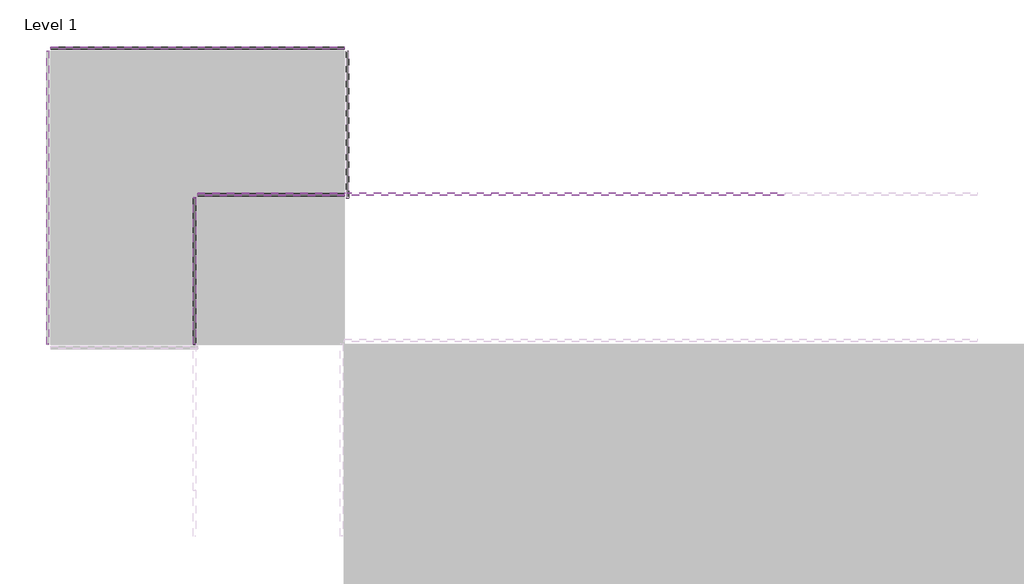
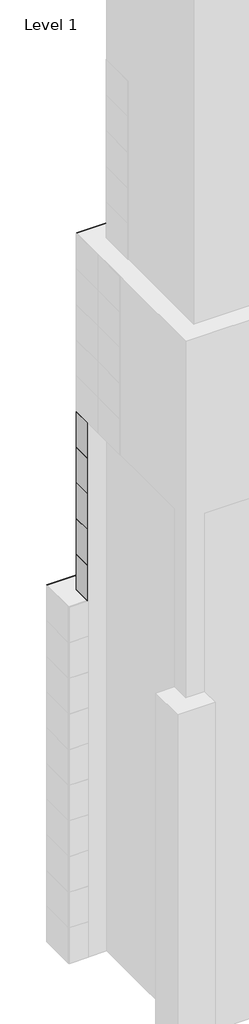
# One storey, part 8 of 15: 137 plates.
"""IFC4 building model written with IfcOpenShell, lengths in millimetres."""

from ifc_helpers import new_model, si_unit, origin, place, context, project, spatial, transform, mapped, element, save
from components import system_panel_glazed_9c75bc08, system_panel_glazed_0a0842ec, system_panel_glazed_aa64d645

model = new_model("IFC4")

# Units and contexts
model_context = context("Model", 3, world=origin())
ifc_project = project(units=[si_unit("LENGTHUNIT", "METRE", prefix="MILLI")], contexts=[model_context])

# Site, building, storey
site = spatial("IfcSite", under=ifc_project)
building = spatial("IfcBuilding", under=site)
storey = spatial("IfcBuildingStorey", under=building, Name="Level 1", Elevation=0.0)

# Plates
placement = place(None, origin())
system_panel_glazed_shape = system_panel_glazed_9c75bc08(model_context)
element("IfcPlate", 1, ObjectType="System Panel : Glazed", at=placement, inside=storey, context=model_context, shape_type="MappedRepresentation", body=[
    mapped(system_panel_glazed_shape, transform((-20839.4161695, 8735.9495511, 0.0), x_axis=(0.0, -1.0, 0.0), y_axis=(1.0, 0.0, 0.0), z_axis=(0.0, 0.0, 1.0))),
])
element("IfcPlate", 2, ObjectType="System Panel : Glazed", at=placement, inside=storey, context=model_context, shape_type="MappedRepresentation", body=[
    mapped(system_panel_glazed_shape, transform((-20839.4161695, 8735.9495511, 3048.0), x_axis=(0.0, -1.0, 0.0), y_axis=(1.0, 0.0, 0.0), z_axis=(0.0, 0.0, 1.0))),
])
element("IfcPlate", 3, ObjectType="System Panel : Glazed", at=placement, inside=storey, context=model_context, shape_type="MappedRepresentation", body=[
    mapped(system_panel_glazed_shape, transform((-20839.4161695, 8735.9495511, 6096.0), x_axis=(0.0, -1.0, 0.0), y_axis=(1.0, 0.0, 0.0), z_axis=(0.0, 0.0, 1.0))),
])
element("IfcPlate", 4, ObjectType="System Panel : Glazed", at=placement, inside=storey, context=model_context, shape_type="MappedRepresentation", body=[
    mapped(system_panel_glazed_shape, transform((-20839.4161695, 8735.9495511, 9144.0), x_axis=(0.0, -1.0, 0.0), y_axis=(1.0, 0.0, 0.0), z_axis=(0.0, 0.0, 1.0))),
])
element("IfcPlate", 5, ObjectType="System Panel : Glazed", at=placement, inside=storey, context=model_context, shape_type="MappedRepresentation", body=[
    mapped(system_panel_glazed_shape, transform((-20839.4161695, 8735.9495511, 12192.0), x_axis=(0.0, -1.0, 0.0), y_axis=(1.0, 0.0, 0.0), z_axis=(0.0, 0.0, 1.0))),
])
element("IfcPlate", 6, ObjectType="System Panel : Glazed", at=placement, inside=storey, context=model_context, shape_type="MappedRepresentation", body=[
    mapped(system_panel_glazed_shape, transform((-20839.4161695, 8735.9495511, 15240.0), x_axis=(0.0, -1.0, 0.0), y_axis=(1.0, 0.0, 0.0), z_axis=(0.0, 0.0, 1.0))),
])
element("IfcPlate", 7, ObjectType="System Panel : Glazed", at=placement, inside=storey, context=model_context, shape_type="MappedRepresentation", body=[
    mapped(system_panel_glazed_shape, transform((-20839.4161695, 8735.9495511, 18288.0), x_axis=(0.0, -1.0, 0.0), y_axis=(1.0, 0.0, 0.0), z_axis=(0.0, 0.0, 1.0))),
])
element("IfcPlate", 8, ObjectType="System Panel : Glazed", at=placement, inside=storey, context=model_context, shape_type="MappedRepresentation", body=[
    mapped(system_panel_glazed_shape, transform((-20839.4161695, 8735.9495511, 21336.0), x_axis=(0.0, -1.0, 0.0), y_axis=(1.0, 0.0, 0.0), z_axis=(0.0, 0.0, 1.0))),
])
element("IfcPlate", 9, ObjectType="System Panel : Glazed", at=placement, inside=storey, context=model_context, shape_type="MappedRepresentation", body=[
    mapped(system_panel_glazed_shape, transform((-20839.4161695, 8735.9495511, 24384.0), x_axis=(0.0, -1.0, 0.0), y_axis=(1.0, 0.0, 0.0), z_axis=(0.0, 0.0, 1.0))),
])
element("IfcPlate", 10, ObjectType="System Panel : Glazed", at=placement, inside=storey, context=model_context, shape_type="MappedRepresentation", body=[
    mapped(system_panel_glazed_shape, transform((-20839.4161695, 8735.9495511, 27432.0), x_axis=(0.0, -1.0, 0.0), y_axis=(1.0, 0.0, 0.0), z_axis=(0.0, 0.0, 1.0))),
])
element("IfcPlate", 11, ObjectType="System Panel : Glazed", at=placement, inside=storey, context=model_context, shape_type="MappedRepresentation", body=[
    mapped(system_panel_glazed_shape, transform((-20839.4161695, 8735.9495511, 30480.0), x_axis=(0.0, -1.0, 0.0), y_axis=(1.0, 0.0, 0.0), z_axis=(0.0, 0.0, 1.0))),
])
element("IfcPlate", 12, ObjectType="System Panel : Glazed", at=placement, inside=storey, context=model_context, shape_type="MappedRepresentation", body=[
    mapped(system_panel_glazed_shape, transform((-20839.4161695, 8735.9495511, 33528.0), x_axis=(0.0, -1.0, 0.0), y_axis=(1.0, 0.0, 0.0), z_axis=(0.0, 0.0, 1.0))),
])
element("IfcPlate", 13, ObjectType="System Panel : Glazed", at=placement, inside=storey, context=model_context, shape_type="MappedRepresentation", body=[
    mapped(system_panel_glazed_shape, transform((-20839.4161695, 8735.9495511, 36576.0), x_axis=(0.0, -1.0, 0.0), y_axis=(1.0, 0.0, 0.0), z_axis=(0.0, 0.0, 1.0))),
])
element("IfcPlate", 14, ObjectType="System Panel : Glazed", at=placement, inside=storey, context=model_context, shape_type="MappedRepresentation", body=[
    mapped(system_panel_glazed_shape, transform((-20839.4161695, 8735.9495511, 39624.0), x_axis=(0.0, -1.0, 0.0), y_axis=(1.0, 0.0, 0.0), z_axis=(0.0, 0.0, 1.0))),
])
element("IfcPlate", 15, ObjectType="System Panel : Glazed", at=placement, inside=storey, context=model_context, shape_type="MappedRepresentation", body=[
    mapped(system_panel_glazed_shape, transform((-20839.4161695, 8735.9495511, 42672.0), x_axis=(0.0, -1.0, 0.0), y_axis=(1.0, 0.0, 0.0), z_axis=(0.0, 0.0, 1.0))),
])
element("IfcPlate", 16, ObjectType="System Panel : Glazed", at=placement, inside=storey, context=model_context, shape_type="MappedRepresentation", body=[
    mapped(system_panel_glazed_shape, transform((-20077.4161695, 9497.9495511, 0.0), x_axis=(-1.0, 0.0, 0.0), y_axis=(0.0, -1.0, 0.0), z_axis=(0.0, 0.0, 1.0))),
])
element("IfcPlate", 17, ObjectType="System Panel : Glazed", at=placement, inside=storey, context=model_context, shape_type="MappedRepresentation", body=[
    mapped(system_panel_glazed_shape, transform((-20077.4161695, 9497.9495511, 3048.0), x_axis=(-1.0, 0.0, 0.0), y_axis=(0.0, -1.0, 0.0), z_axis=(0.0, 0.0, 1.0))),
])
element("IfcPlate", 18, ObjectType="System Panel : Glazed", at=placement, inside=storey, context=model_context, shape_type="MappedRepresentation", body=[
    mapped(system_panel_glazed_shape, transform((-20077.4161695, 9497.9495511, 6096.0), x_axis=(-1.0, 0.0, 0.0), y_axis=(0.0, -1.0, 0.0), z_axis=(0.0, 0.0, 1.0))),
])
element("IfcPlate", 19, ObjectType="System Panel : Glazed", at=placement, inside=storey, context=model_context, shape_type="MappedRepresentation", body=[
    mapped(system_panel_glazed_shape, transform((-20077.4161695, 9497.9495511, 9144.0), x_axis=(-1.0, 0.0, 0.0), y_axis=(0.0, -1.0, 0.0), z_axis=(0.0, 0.0, 1.0))),
])
element("IfcPlate", 20, ObjectType="System Panel : Glazed", at=placement, inside=storey, context=model_context, shape_type="MappedRepresentation", body=[
    mapped(system_panel_glazed_shape, transform((-20077.4161695, 9497.9495511, 12192.0), x_axis=(-1.0, 0.0, 0.0), y_axis=(0.0, -1.0, 0.0), z_axis=(0.0, 0.0, 1.0))),
])
element("IfcPlate", 21, ObjectType="System Panel : Glazed", at=placement, inside=storey, context=model_context, shape_type="MappedRepresentation", body=[
    mapped(system_panel_glazed_shape, transform((-20077.4161695, 9497.9495511, 15240.0), x_axis=(-1.0, 0.0, 0.0), y_axis=(0.0, -1.0, 0.0), z_axis=(0.0, 0.0, 1.0))),
])
element("IfcPlate", 22, ObjectType="System Panel : Glazed", at=placement, inside=storey, context=model_context, shape_type="MappedRepresentation", body=[
    mapped(system_panel_glazed_shape, transform((-20077.4161695, 9497.9495511, 18288.0), x_axis=(-1.0, 0.0, 0.0), y_axis=(0.0, -1.0, 0.0), z_axis=(0.0, 0.0, 1.0))),
])
element("IfcPlate", 23, ObjectType="System Panel : Glazed", at=placement, inside=storey, context=model_context, shape_type="MappedRepresentation", body=[
    mapped(system_panel_glazed_shape, transform((-20077.4161695, 9497.9495511, 21336.0), x_axis=(-1.0, 0.0, 0.0), y_axis=(0.0, -1.0, 0.0), z_axis=(0.0, 0.0, 1.0))),
])
element("IfcPlate", 24, ObjectType="System Panel : Glazed", at=placement, inside=storey, context=model_context, shape_type="MappedRepresentation", body=[
    mapped(system_panel_glazed_shape, transform((-20077.4161695, 9497.9495511, 24384.0), x_axis=(-1.0, 0.0, 0.0), y_axis=(0.0, -1.0, 0.0), z_axis=(0.0, 0.0, 1.0))),
])
element("IfcPlate", 25, ObjectType="System Panel : Glazed", at=placement, inside=storey, context=model_context, shape_type="MappedRepresentation", body=[
    mapped(system_panel_glazed_shape, transform((-20077.4161695, 9497.9495511, 27432.0), x_axis=(-1.0, 0.0, 0.0), y_axis=(0.0, -1.0, 0.0), z_axis=(0.0, 0.0, 1.0))),
])
element("IfcPlate", 26, ObjectType="System Panel : Glazed", at=placement, inside=storey, context=model_context, shape_type="MappedRepresentation", body=[
    mapped(system_panel_glazed_shape, transform((-20077.4161695, 9497.9495511, 30480.0), x_axis=(-1.0, 0.0, 0.0), y_axis=(0.0, -1.0, 0.0), z_axis=(0.0, 0.0, 1.0))),
])
element("IfcPlate", 27, ObjectType="System Panel : Glazed", at=placement, inside=storey, context=model_context, shape_type="MappedRepresentation", body=[
    mapped(system_panel_glazed_shape, transform((-20077.4161695, 9497.9495511, 33528.0), x_axis=(-1.0, 0.0, 0.0), y_axis=(0.0, -1.0, 0.0), z_axis=(0.0, 0.0, 1.0))),
])
element("IfcPlate", 28, ObjectType="System Panel : Glazed", at=placement, inside=storey, context=model_context, shape_type="MappedRepresentation", body=[
    mapped(system_panel_glazed_shape, transform((-20077.4161695, 9497.9495511, 36576.0), x_axis=(-1.0, 0.0, 0.0), y_axis=(0.0, -1.0, 0.0), z_axis=(0.0, 0.0, 1.0))),
])
element("IfcPlate", 29, ObjectType="System Panel : Glazed", at=placement, inside=storey, context=model_context, shape_type="MappedRepresentation", body=[
    mapped(system_panel_glazed_shape, transform((-20077.4161695, 9497.9495511, 39624.0), x_axis=(-1.0, 0.0, 0.0), y_axis=(0.0, -1.0, 0.0), z_axis=(0.0, 0.0, 1.0))),
])
element("IfcPlate", 30, ObjectType="System Panel : Glazed", at=placement, inside=storey, context=model_context, shape_type="MappedRepresentation", body=[
    mapped(system_panel_glazed_shape, transform((-20077.4161695, 9497.9495511, 42672.0), x_axis=(-1.0, 0.0, 0.0), y_axis=(0.0, -1.0, 0.0), z_axis=(0.0, 0.0, 1.0))),
])
element("IfcPlate", 31, ObjectType="System Panel : Glazed", at=placement, inside=storey, context=model_context, shape_type="MappedRepresentation", body=[
    mapped(system_panel_glazed_shape, transform((-20077.4161695, 9497.9495511, 0.0), x_axis=(-1.0, 0.0, 0.0), y_axis=(0.0, -1.0, 0.0), z_axis=(0.0, 0.0, 1.0))),
])
element("IfcPlate", 32, ObjectType="System Panel : Glazed", at=placement, inside=storey, context=model_context, shape_type="MappedRepresentation", body=[
    mapped(system_panel_glazed_shape, transform((-20077.4161695, 9497.9495511, 3048.0), x_axis=(-1.0, 0.0, 0.0), y_axis=(0.0, -1.0, 0.0), z_axis=(0.0, 0.0, 1.0))),
])
element("IfcPlate", 33, ObjectType="System Panel : Glazed", at=placement, inside=storey, context=model_context, shape_type="MappedRepresentation", body=[
    mapped(system_panel_glazed_shape, transform((-20077.4161695, 9497.9495511, 6096.0), x_axis=(-1.0, 0.0, 0.0), y_axis=(0.0, -1.0, 0.0), z_axis=(0.0, 0.0, 1.0))),
])
element("IfcPlate", 34, ObjectType="System Panel : Glazed", at=placement, inside=storey, context=model_context, shape_type="MappedRepresentation", body=[
    mapped(system_panel_glazed_shape, transform((-20077.4161695, 9497.9495511, 9144.0), x_axis=(-1.0, 0.0, 0.0), y_axis=(0.0, -1.0, 0.0), z_axis=(0.0, 0.0, 1.0))),
])
element("IfcPlate", 35, ObjectType="System Panel : Glazed", at=placement, inside=storey, context=model_context, shape_type="MappedRepresentation", body=[
    mapped(system_panel_glazed_shape, transform((-20077.4161695, 9497.9495511, 12192.0), x_axis=(-1.0, 0.0, 0.0), y_axis=(0.0, -1.0, 0.0), z_axis=(0.0, 0.0, 1.0))),
])
element("IfcPlate", 36, ObjectType="System Panel : Glazed", at=placement, inside=storey, context=model_context, shape_type="MappedRepresentation", body=[
    mapped(system_panel_glazed_shape, transform((-20077.4161695, 9497.9495511, 15240.0), x_axis=(-1.0, 0.0, 0.0), y_axis=(0.0, -1.0, 0.0), z_axis=(0.0, 0.0, 1.0))),
])
element("IfcPlate", 37, ObjectType="System Panel : Glazed", at=placement, inside=storey, context=model_context, shape_type="MappedRepresentation", body=[
    mapped(system_panel_glazed_shape, transform((-20077.4161695, 9497.9495511, 18288.0), x_axis=(-1.0, 0.0, 0.0), y_axis=(0.0, -1.0, 0.0), z_axis=(0.0, 0.0, 1.0))),
])
element("IfcPlate", 38, ObjectType="System Panel : Glazed", at=placement, inside=storey, context=model_context, shape_type="MappedRepresentation", body=[
    mapped(system_panel_glazed_shape, transform((-20077.4161695, 9497.9495511, 21336.0), x_axis=(-1.0, 0.0, 0.0), y_axis=(0.0, -1.0, 0.0), z_axis=(0.0, 0.0, 1.0))),
])
element("IfcPlate", 39, ObjectType="System Panel : Glazed", at=placement, inside=storey, context=model_context, shape_type="MappedRepresentation", body=[
    mapped(system_panel_glazed_shape, transform((-20077.4161695, 9497.9495511, 24384.0), x_axis=(-1.0, 0.0, 0.0), y_axis=(0.0, -1.0, 0.0), z_axis=(0.0, 0.0, 1.0))),
])
element("IfcPlate", 40, ObjectType="System Panel : Glazed", at=placement, inside=storey, context=model_context, shape_type="MappedRepresentation", body=[
    mapped(system_panel_glazed_shape, transform((-20077.4161695, 9497.9495511, 27432.0), x_axis=(-1.0, 0.0, 0.0), y_axis=(0.0, -1.0, 0.0), z_axis=(0.0, 0.0, 1.0))),
])
element("IfcPlate", 41, ObjectType="System Panel : Glazed", at=placement, inside=storey, context=model_context, shape_type="MappedRepresentation", body=[
    mapped(system_panel_glazed_shape, transform((-20077.4161695, 9497.9495511, 30480.0), x_axis=(-1.0, 0.0, 0.0), y_axis=(0.0, -1.0, 0.0), z_axis=(0.0, 0.0, 1.0))),
])
element("IfcPlate", 42, ObjectType="System Panel : Glazed", at=placement, inside=storey, context=model_context, shape_type="MappedRepresentation", body=[
    mapped(system_panel_glazed_shape, transform((-20077.4161695, 9497.9495511, 33528.0), x_axis=(-1.0, 0.0, 0.0), y_axis=(0.0, -1.0, 0.0), z_axis=(0.0, 0.0, 1.0))),
])
element("IfcPlate", 43, ObjectType="System Panel : Glazed", at=placement, inside=storey, context=model_context, shape_type="MappedRepresentation", body=[
    mapped(system_panel_glazed_shape, transform((-20077.4161695, 9497.9495511, 36576.0), x_axis=(-1.0, 0.0, 0.0), y_axis=(0.0, -1.0, 0.0), z_axis=(0.0, 0.0, 1.0))),
])
element("IfcPlate", 44, ObjectType="System Panel : Glazed", at=placement, inside=storey, context=model_context, shape_type="MappedRepresentation", body=[
    mapped(system_panel_glazed_shape, transform((-20077.4161695, 9497.9495511, 39624.0), x_axis=(-1.0, 0.0, 0.0), y_axis=(0.0, -1.0, 0.0), z_axis=(0.0, 0.0, 1.0))),
])
element("IfcPlate", 45, ObjectType="System Panel : Glazed", at=placement, inside=storey, context=model_context, shape_type="MappedRepresentation", body=[
    mapped(system_panel_glazed_shape, transform((-20077.4161695, 9497.9495511, 42672.0), x_axis=(-1.0, 0.0, 0.0), y_axis=(0.0, -1.0, 0.0), z_axis=(0.0, 0.0, 1.0))),
])
element("IfcPlate", 46, ObjectType="System Panel : Glazed", at=placement, inside=storey, context=model_context, shape_type="MappedRepresentation", body=[
    mapped(system_panel_glazed_shape, transform((-20839.4161695, 8735.9495511, 0.0), x_axis=(0.0, -1.0, 0.0), y_axis=(1.0, 0.0, 0.0), z_axis=(0.0, 0.0, 1.0))),
])
element("IfcPlate", 47, ObjectType="System Panel : Glazed", at=placement, inside=storey, context=model_context, shape_type="MappedRepresentation", body=[
    mapped(system_panel_glazed_shape, transform((-20839.4161695, 8735.9495511, 3048.0), x_axis=(0.0, -1.0, 0.0), y_axis=(1.0, 0.0, 0.0), z_axis=(0.0, 0.0, 1.0))),
])
element("IfcPlate", 48, ObjectType="System Panel : Glazed", at=placement, inside=storey, context=model_context, shape_type="MappedRepresentation", body=[
    mapped(system_panel_glazed_shape, transform((-20839.4161695, 8735.9495511, 6096.0), x_axis=(0.0, -1.0, 0.0), y_axis=(1.0, 0.0, 0.0), z_axis=(0.0, 0.0, 1.0))),
])
element("IfcPlate", 49, ObjectType="System Panel : Glazed", at=placement, inside=storey, context=model_context, shape_type="MappedRepresentation", body=[
    mapped(system_panel_glazed_shape, transform((-20839.4161695, 8735.9495511, 9144.0), x_axis=(0.0, -1.0, 0.0), y_axis=(1.0, 0.0, 0.0), z_axis=(0.0, 0.0, 1.0))),
])
element("IfcPlate", 50, ObjectType="System Panel : Glazed", at=placement, inside=storey, context=model_context, shape_type="MappedRepresentation", body=[
    mapped(system_panel_glazed_shape, transform((-20839.4161695, 8735.9495511, 12192.0), x_axis=(0.0, -1.0, 0.0), y_axis=(1.0, 0.0, 0.0), z_axis=(0.0, 0.0, 1.0))),
])
element("IfcPlate", 51, ObjectType="System Panel : Glazed", at=placement, inside=storey, context=model_context, shape_type="MappedRepresentation", body=[
    mapped(system_panel_glazed_shape, transform((-20839.4161695, 8735.9495511, 15240.0), x_axis=(0.0, -1.0, 0.0), y_axis=(1.0, 0.0, 0.0), z_axis=(0.0, 0.0, 1.0))),
])
element("IfcPlate", 52, ObjectType="System Panel : Glazed", at=placement, inside=storey, context=model_context, shape_type="MappedRepresentation", body=[
    mapped(system_panel_glazed_shape, transform((-20839.4161695, 8735.9495511, 18288.0), x_axis=(0.0, -1.0, 0.0), y_axis=(1.0, 0.0, 0.0), z_axis=(0.0, 0.0, 1.0))),
])
element("IfcPlate", 53, ObjectType="System Panel : Glazed", at=placement, inside=storey, context=model_context, shape_type="MappedRepresentation", body=[
    mapped(system_panel_glazed_shape, transform((-20839.4161695, 8735.9495511, 21336.0), x_axis=(0.0, -1.0, 0.0), y_axis=(1.0, 0.0, 0.0), z_axis=(0.0, 0.0, 1.0))),
])
element("IfcPlate", 54, ObjectType="System Panel : Glazed", at=placement, inside=storey, context=model_context, shape_type="MappedRepresentation", body=[
    mapped(system_panel_glazed_shape, transform((-20839.4161695, 8735.9495511, 24384.0), x_axis=(0.0, -1.0, 0.0), y_axis=(1.0, 0.0, 0.0), z_axis=(0.0, 0.0, 1.0))),
])
element("IfcPlate", 55, ObjectType="System Panel : Glazed", at=placement, inside=storey, context=model_context, shape_type="MappedRepresentation", body=[
    mapped(system_panel_glazed_shape, transform((-20839.4161695, 8735.9495511, 27432.0), x_axis=(0.0, -1.0, 0.0), y_axis=(1.0, 0.0, 0.0), z_axis=(0.0, 0.0, 1.0))),
])
element("IfcPlate", 56, ObjectType="System Panel : Glazed", at=placement, inside=storey, context=model_context, shape_type="MappedRepresentation", body=[
    mapped(system_panel_glazed_shape, transform((-20839.4161695, 8735.9495511, 30480.0), x_axis=(0.0, -1.0, 0.0), y_axis=(1.0, 0.0, 0.0), z_axis=(0.0, 0.0, 1.0))),
])
element("IfcPlate", 57, ObjectType="System Panel : Glazed", at=placement, inside=storey, context=model_context, shape_type="MappedRepresentation", body=[
    mapped(system_panel_glazed_shape, transform((-20839.4161695, 8735.9495511, 33528.0), x_axis=(0.0, -1.0, 0.0), y_axis=(1.0, 0.0, 0.0), z_axis=(0.0, 0.0, 1.0))),
])
element("IfcPlate", 58, ObjectType="System Panel : Glazed", at=placement, inside=storey, context=model_context, shape_type="MappedRepresentation", body=[
    mapped(system_panel_glazed_shape, transform((-20839.4161695, 8735.9495511, 36576.0), x_axis=(0.0, -1.0, 0.0), y_axis=(1.0, 0.0, 0.0), z_axis=(0.0, 0.0, 1.0))),
])
element("IfcPlate", 59, ObjectType="System Panel : Glazed", at=placement, inside=storey, context=model_context, shape_type="MappedRepresentation", body=[
    mapped(system_panel_glazed_shape, transform((-20839.4161695, 8735.9495511, 39624.0), x_axis=(0.0, -1.0, 0.0), y_axis=(1.0, 0.0, 0.0), z_axis=(0.0, 0.0, 1.0))),
])
element("IfcPlate", 60, ObjectType="System Panel : Glazed", at=placement, inside=storey, context=model_context, shape_type="MappedRepresentation", body=[
    mapped(system_panel_glazed_shape, transform((-20839.4161695, 8735.9495511, 42672.0), x_axis=(0.0, -1.0, 0.0), y_axis=(1.0, 0.0, 0.0), z_axis=(0.0, 0.0, 1.0))),
])
element("IfcPlate", 61, ObjectType="System Panel : Glazed", at=placement, inside=storey, context=model_context, shape_type="MappedRepresentation", body=[
    mapped(system_panel_glazed_shape, transform((-20077.4161695, 9497.9495511, 0.0), x_axis=(-1.0, 0.0, 0.0), y_axis=(0.0, -1.0, 0.0), z_axis=(0.0, 0.0, 1.0))),
])
element("IfcPlate", 62, ObjectType="System Panel : Glazed", at=placement, inside=storey, context=model_context, shape_type="MappedRepresentation", body=[
    mapped(system_panel_glazed_shape, transform((-20077.4161695, 9497.9495511, 3048.0), x_axis=(-1.0, 0.0, 0.0), y_axis=(0.0, -1.0, 0.0), z_axis=(0.0, 0.0, 1.0))),
])
element("IfcPlate", 63, ObjectType="System Panel : Glazed", at=placement, inside=storey, context=model_context, shape_type="MappedRepresentation", body=[
    mapped(system_panel_glazed_shape, transform((-20077.4161695, 9497.9495511, 6096.0), x_axis=(-1.0, 0.0, 0.0), y_axis=(0.0, -1.0, 0.0), z_axis=(0.0, 0.0, 1.0))),
])
element("IfcPlate", 64, ObjectType="System Panel : Glazed", at=placement, inside=storey, context=model_context, shape_type="MappedRepresentation", body=[
    mapped(system_panel_glazed_shape, transform((-20077.4161695, 9497.9495511, 9144.0), x_axis=(-1.0, 0.0, 0.0), y_axis=(0.0, -1.0, 0.0), z_axis=(0.0, 0.0, 1.0))),
])
element("IfcPlate", 65, ObjectType="System Panel : Glazed", at=placement, inside=storey, context=model_context, shape_type="MappedRepresentation", body=[
    mapped(system_panel_glazed_shape, transform((-20077.4161695, 9497.9495511, 12192.0), x_axis=(-1.0, 0.0, 0.0), y_axis=(0.0, -1.0, 0.0), z_axis=(0.0, 0.0, 1.0))),
])
element("IfcPlate", 66, ObjectType="System Panel : Glazed", at=placement, inside=storey, context=model_context, shape_type="MappedRepresentation", body=[
    mapped(system_panel_glazed_shape, transform((-20077.4161695, 9497.9495511, 15240.0), x_axis=(-1.0, 0.0, 0.0), y_axis=(0.0, -1.0, 0.0), z_axis=(0.0, 0.0, 1.0))),
])
element("IfcPlate", 67, ObjectType="System Panel : Glazed", at=placement, inside=storey, context=model_context, shape_type="MappedRepresentation", body=[
    mapped(system_panel_glazed_shape, transform((-20077.4161695, 9497.9495511, 18288.0), x_axis=(-1.0, 0.0, 0.0), y_axis=(0.0, -1.0, 0.0), z_axis=(0.0, 0.0, 1.0))),
])
element("IfcPlate", 68, ObjectType="System Panel : Glazed", at=placement, inside=storey, context=model_context, shape_type="MappedRepresentation", body=[
    mapped(system_panel_glazed_shape, transform((-20077.4161695, 9497.9495511, 21336.0), x_axis=(-1.0, 0.0, 0.0), y_axis=(0.0, -1.0, 0.0), z_axis=(0.0, 0.0, 1.0))),
])
element("IfcPlate", 69, ObjectType="System Panel : Glazed", at=placement, inside=storey, context=model_context, shape_type="MappedRepresentation", body=[
    mapped(system_panel_glazed_shape, transform((-20077.4161695, 9497.9495511, 24384.0), x_axis=(-1.0, 0.0, 0.0), y_axis=(0.0, -1.0, 0.0), z_axis=(0.0, 0.0, 1.0))),
])
element("IfcPlate", 70, ObjectType="System Panel : Glazed", at=placement, inside=storey, context=model_context, shape_type="MappedRepresentation", body=[
    mapped(system_panel_glazed_shape, transform((-20077.4161695, 9497.9495511, 27432.0), x_axis=(-1.0, 0.0, 0.0), y_axis=(0.0, -1.0, 0.0), z_axis=(0.0, 0.0, 1.0))),
])
element("IfcPlate", 71, ObjectType="System Panel : Glazed", at=placement, inside=storey, context=model_context, shape_type="MappedRepresentation", body=[
    mapped(system_panel_glazed_shape, transform((-20077.4161695, 9497.9495511, 30480.0), x_axis=(-1.0, 0.0, 0.0), y_axis=(0.0, -1.0, 0.0), z_axis=(0.0, 0.0, 1.0))),
])
element("IfcPlate", 72, ObjectType="System Panel : Glazed", at=placement, inside=storey, context=model_context, shape_type="MappedRepresentation", body=[
    mapped(system_panel_glazed_shape, transform((-20077.4161695, 9497.9495511, 33528.0), x_axis=(-1.0, 0.0, 0.0), y_axis=(0.0, -1.0, 0.0), z_axis=(0.0, 0.0, 1.0))),
])
element("IfcPlate", 73, ObjectType="System Panel : Glazed", at=placement, inside=storey, context=model_context, shape_type="MappedRepresentation", body=[
    mapped(system_panel_glazed_shape, transform((-20077.4161695, 9497.9495511, 36576.0), x_axis=(-1.0, 0.0, 0.0), y_axis=(0.0, -1.0, 0.0), z_axis=(0.0, 0.0, 1.0))),
])
element("IfcPlate", 74, ObjectType="System Panel : Glazed", at=placement, inside=storey, context=model_context, shape_type="MappedRepresentation", body=[
    mapped(system_panel_glazed_shape, transform((-20077.4161695, 9497.9495511, 39624.0), x_axis=(-1.0, 0.0, 0.0), y_axis=(0.0, -1.0, 0.0), z_axis=(0.0, 0.0, 1.0))),
])
element("IfcPlate", 75, ObjectType="System Panel : Glazed", at=placement, inside=storey, context=model_context, shape_type="MappedRepresentation", body=[
    mapped(system_panel_glazed_shape, transform((-20077.4161695, 9497.9495511, 42672.0), x_axis=(-1.0, 0.0, 0.0), y_axis=(0.0, -1.0, 0.0), z_axis=(0.0, 0.0, 1.0))),
])
element("IfcPlate", 76, ObjectType="System Panel : Glazed", at=placement, inside=storey, context=model_context, shape_type="MappedRepresentation", body=[
    mapped(system_panel_glazed_shape, transform((-19315.4161695, 10259.9495511, 0.0), x_axis=(0.0, 1.0, 0.0), y_axis=(-1.0, 0.0, 0.0), z_axis=(0.0, 0.0, 1.0))),
])
element("IfcPlate", 77, ObjectType="System Panel : Glazed", at=placement, inside=storey, context=model_context, shape_type="MappedRepresentation", body=[
    mapped(system_panel_glazed_shape, transform((-19315.4161695, 10259.9495511, 3048.0), x_axis=(0.0, 1.0, 0.0), y_axis=(-1.0, 0.0, 0.0), z_axis=(0.0, 0.0, 1.0))),
])
element("IfcPlate", 78, ObjectType="System Panel : Glazed", at=placement, inside=storey, context=model_context, shape_type="MappedRepresentation", body=[
    mapped(system_panel_glazed_shape, transform((-19315.4161695, 10259.9495511, 6096.0), x_axis=(0.0, 1.0, 0.0), y_axis=(-1.0, 0.0, 0.0), z_axis=(0.0, 0.0, 1.0))),
])
element("IfcPlate", 79, ObjectType="System Panel : Glazed", at=placement, inside=storey, context=model_context, shape_type="MappedRepresentation", body=[
    mapped(system_panel_glazed_shape, transform((-19315.4161695, 10259.9495511, 9144.0), x_axis=(0.0, 1.0, 0.0), y_axis=(-1.0, 0.0, 0.0), z_axis=(0.0, 0.0, 1.0))),
])
element("IfcPlate", 80, ObjectType="System Panel : Glazed", at=placement, inside=storey, context=model_context, shape_type="MappedRepresentation", body=[
    mapped(system_panel_glazed_shape, transform((-19315.4161695, 10259.9495511, 12192.0), x_axis=(0.0, 1.0, 0.0), y_axis=(-1.0, 0.0, 0.0), z_axis=(0.0, 0.0, 1.0))),
])
element("IfcPlate", 81, ObjectType="System Panel : Glazed", at=placement, inside=storey, context=model_context, shape_type="MappedRepresentation", body=[
    mapped(system_panel_glazed_shape, transform((-19315.4161695, 10259.9495511, 15240.0), x_axis=(0.0, 1.0, 0.0), y_axis=(-1.0, 0.0, 0.0), z_axis=(0.0, 0.0, 1.0))),
])
system_panel_glazed_2_shape = system_panel_glazed_0a0842ec(model_context)
element("IfcPlate", 82, ObjectType="System Panel : Glazed", at=placement, inside=storey, context=model_context, shape_type="MappedRepresentation", body=[
    mapped(system_panel_glazed_2_shape, transform((-19315.4161695, 9497.9495511, 45720.0), x_axis=(-1.0, 0.0, 0.0), y_axis=(0.0, -1.0, 0.0), z_axis=(0.0, 0.0, 1.0))),
])
element("IfcPlate", 83, ObjectType="System Panel : Glazed", at=placement, inside=storey, context=model_context, shape_type="MappedRepresentation", body=[
    mapped(system_panel_glazed_2_shape, transform((-19315.4161695, 9497.9495511, 45720.0), x_axis=(-1.0, 0.0, 0.0), y_axis=(0.0, -1.0, 0.0), z_axis=(0.0, 0.0, 1.0))),
])
element("IfcPlate", 84, ObjectType="System Panel : Glazed", at=placement, inside=storey, context=model_context, shape_type="MappedRepresentation", body=[
    mapped(system_panel_glazed_2_shape, transform((-19315.4161695, 9497.9495511, 45720.0), x_axis=(-1.0, 0.0, 0.0), y_axis=(0.0, -1.0, 0.0), z_axis=(0.0, 0.0, 1.0))),
])
system_panel_glazed_3_shape = system_panel_glazed_aa64d645(model_context)
element("IfcPlate", 85, ObjectType="System Panel : Glazed", at=placement, inside=storey, context=model_context, shape_type="MappedRepresentation", body=[
    mapped(system_panel_glazed_3_shape, transform((-16267.4161695, 9497.9495511, 45720.0), x_axis=(-1.0, 0.0, 0.0), y_axis=(0.0, -1.0, 0.0), z_axis=(0.0, 0.0, 1.0))),
])
element("IfcPlate", 86, ObjectType="System Panel : Glazed", at=placement, inside=storey, context=model_context, shape_type="MappedRepresentation", body=[
    mapped(system_panel_glazed_3_shape, transform((-16267.4161695, 9497.9495511, 48768.0), x_axis=(-1.0, 0.0, 0.0), y_axis=(0.0, -1.0, 0.0), z_axis=(0.0, 0.0, 1.0))),
])
element("IfcPlate", 87, ObjectType="System Panel : Glazed", at=placement, inside=storey, context=model_context, shape_type="MappedRepresentation", body=[
    mapped(system_panel_glazed_3_shape, transform((-19315.4161695, 9497.9495511, 48768.0), x_axis=(-1.0, 0.0, 0.0), y_axis=(0.0, -1.0, 0.0), z_axis=(0.0, 0.0, 1.0))),
])
element("IfcPlate", 88, ObjectType="System Panel : Glazed", at=placement, inside=storey, context=model_context, shape_type="MappedRepresentation", body=[
    mapped(system_panel_glazed_3_shape, transform((-16267.4161695, 9497.9495511, 51816.0), x_axis=(-1.0, 0.0, 0.0), y_axis=(0.0, -1.0, 0.0), z_axis=(0.0, 0.0, 1.0))),
])
element("IfcPlate", 89, ObjectType="System Panel : Glazed", at=placement, inside=storey, context=model_context, shape_type="MappedRepresentation", body=[
    mapped(system_panel_glazed_3_shape, transform((-19315.4161695, 9497.9495511, 51816.0), x_axis=(-1.0, 0.0, 0.0), y_axis=(0.0, -1.0, 0.0), z_axis=(0.0, 0.0, 1.0))),
])
element("IfcPlate", 90, ObjectType="System Panel : Glazed", at=placement, inside=storey, context=model_context, shape_type="MappedRepresentation", body=[
    mapped(system_panel_glazed_3_shape, transform((-16267.4161695, 9497.9495511, 54864.0), x_axis=(-1.0, 0.0, 0.0), y_axis=(0.0, -1.0, 0.0), z_axis=(0.0, 0.0, 1.0))),
])
element("IfcPlate", 91, ObjectType="System Panel : Glazed", at=placement, inside=storey, context=model_context, shape_type="MappedRepresentation", body=[
    mapped(system_panel_glazed_3_shape, transform((-19315.4161695, 9497.9495511, 54864.0), x_axis=(-1.0, 0.0, 0.0), y_axis=(0.0, -1.0, 0.0), z_axis=(0.0, 0.0, 1.0))),
])
element("IfcPlate", 92, ObjectType="System Panel : Glazed", at=placement, inside=storey, context=model_context, shape_type="MappedRepresentation", body=[
    mapped(system_panel_glazed_3_shape, transform((-16267.4161695, 9497.9495511, 57912.0), x_axis=(-1.0, 0.0, 0.0), y_axis=(0.0, -1.0, 0.0), z_axis=(0.0, 0.0, 1.0))),
])
element("IfcPlate", 93, ObjectType="System Panel : Glazed", at=placement, inside=storey, context=model_context, shape_type="MappedRepresentation", body=[
    mapped(system_panel_glazed_3_shape, transform((-19315.4161695, 9497.9495511, 57912.0), x_axis=(-1.0, 0.0, 0.0), y_axis=(0.0, -1.0, 0.0), z_axis=(0.0, 0.0, 1.0))),
])
element("IfcPlate", 94, ObjectType="System Panel : Glazed", at=placement, inside=storey, context=model_context, shape_type="MappedRepresentation", body=[
    mapped(system_panel_glazed_3_shape, transform((-16267.4161695, 9497.9495511, 45720.0), x_axis=(-1.0, 0.0, 0.0), y_axis=(0.0, -1.0, 0.0), z_axis=(0.0, 0.0, 1.0))),
])
element("IfcPlate", 95, ObjectType="System Panel : Glazed", at=placement, inside=storey, context=model_context, shape_type="MappedRepresentation", body=[
    mapped(system_panel_glazed_3_shape, transform((-16267.4161695, 9497.9495511, 48768.0), x_axis=(-1.0, 0.0, 0.0), y_axis=(0.0, -1.0, 0.0), z_axis=(0.0, 0.0, 1.0))),
])
element("IfcPlate", 96, ObjectType="System Panel : Glazed", at=placement, inside=storey, context=model_context, shape_type="MappedRepresentation", body=[
    mapped(system_panel_glazed_3_shape, transform((-19315.4161695, 9497.9495511, 48768.0), x_axis=(-1.0, 0.0, 0.0), y_axis=(0.0, -1.0, 0.0), z_axis=(0.0, 0.0, 1.0))),
])
element("IfcPlate", 97, ObjectType="System Panel : Glazed", at=placement, inside=storey, context=model_context, shape_type="MappedRepresentation", body=[
    mapped(system_panel_glazed_3_shape, transform((-16267.4161695, 9497.9495511, 51816.0), x_axis=(-1.0, 0.0, 0.0), y_axis=(0.0, -1.0, 0.0), z_axis=(0.0, 0.0, 1.0))),
])
element("IfcPlate", 98, ObjectType="System Panel : Glazed", at=placement, inside=storey, context=model_context, shape_type="MappedRepresentation", body=[
    mapped(system_panel_glazed_3_shape, transform((-19315.4161695, 9497.9495511, 51816.0), x_axis=(-1.0, 0.0, 0.0), y_axis=(0.0, -1.0, 0.0), z_axis=(0.0, 0.0, 1.0))),
])
element("IfcPlate", 99, ObjectType="System Panel : Glazed", at=placement, inside=storey, context=model_context, shape_type="MappedRepresentation", body=[
    mapped(system_panel_glazed_3_shape, transform((-16267.4161695, 9497.9495511, 54864.0), x_axis=(-1.0, 0.0, 0.0), y_axis=(0.0, -1.0, 0.0), z_axis=(0.0, 0.0, 1.0))),
])
element("IfcPlate", 100, ObjectType="System Panel : Glazed", at=placement, inside=storey, context=model_context, shape_type="MappedRepresentation", body=[
    mapped(system_panel_glazed_3_shape, transform((-19315.4161695, 9497.9495511, 54864.0), x_axis=(-1.0, 0.0, 0.0), y_axis=(0.0, -1.0, 0.0), z_axis=(0.0, 0.0, 1.0))),
])
element("IfcPlate", 101, ObjectType="System Panel : Glazed", at=placement, inside=storey, context=model_context, shape_type="MappedRepresentation", body=[
    mapped(system_panel_glazed_3_shape, transform((-16267.4161695, 9497.9495511, 57912.0), x_axis=(-1.0, 0.0, 0.0), y_axis=(0.0, -1.0, 0.0), z_axis=(0.0, 0.0, 1.0))),
])
element("IfcPlate", 102, ObjectType="System Panel : Glazed", at=placement, inside=storey, context=model_context, shape_type="MappedRepresentation", body=[
    mapped(system_panel_glazed_3_shape, transform((-19315.4161695, 9497.9495511, 57912.0), x_axis=(-1.0, 0.0, 0.0), y_axis=(0.0, -1.0, 0.0), z_axis=(0.0, 0.0, 1.0))),
])
element("IfcPlate", 103, ObjectType="System Panel : Glazed", at=placement, inside=storey, context=model_context, shape_type="MappedRepresentation", body=[
    mapped(system_panel_glazed_3_shape, transform((-16267.4161695, 9497.9495511, 45720.0), x_axis=(-1.0, 0.0, 0.0), y_axis=(0.0, -1.0, 0.0), z_axis=(0.0, 0.0, 1.0))),
])
element("IfcPlate", 104, ObjectType="System Panel : Glazed", at=placement, inside=storey, context=model_context, shape_type="MappedRepresentation", body=[
    mapped(system_panel_glazed_3_shape, transform((-16267.4161695, 9497.9495511, 48768.0), x_axis=(-1.0, 0.0, 0.0), y_axis=(0.0, -1.0, 0.0), z_axis=(0.0, 0.0, 1.0))),
])
element("IfcPlate", 105, ObjectType="System Panel : Glazed", at=placement, inside=storey, context=model_context, shape_type="MappedRepresentation", body=[
    mapped(system_panel_glazed_3_shape, transform((-19315.4161695, 9497.9495511, 48768.0), x_axis=(-1.0, 0.0, 0.0), y_axis=(0.0, -1.0, 0.0), z_axis=(0.0, 0.0, 1.0))),
])
element("IfcPlate", 106, ObjectType="System Panel : Glazed", at=placement, inside=storey, context=model_context, shape_type="MappedRepresentation", body=[
    mapped(system_panel_glazed_3_shape, transform((-16267.4161695, 9497.9495511, 51816.0), x_axis=(-1.0, 0.0, 0.0), y_axis=(0.0, -1.0, 0.0), z_axis=(0.0, 0.0, 1.0))),
])
element("IfcPlate", 107, ObjectType="System Panel : Glazed", at=placement, inside=storey, context=model_context, shape_type="MappedRepresentation", body=[
    mapped(system_panel_glazed_3_shape, transform((-19315.4161695, 9497.9495511, 51816.0), x_axis=(-1.0, 0.0, 0.0), y_axis=(0.0, -1.0, 0.0), z_axis=(0.0, 0.0, 1.0))),
])
element("IfcPlate", 108, ObjectType="System Panel : Glazed", at=placement, inside=storey, context=model_context, shape_type="MappedRepresentation", body=[
    mapped(system_panel_glazed_3_shape, transform((-16267.4161695, 9497.9495511, 54864.0), x_axis=(-1.0, 0.0, 0.0), y_axis=(0.0, -1.0, 0.0), z_axis=(0.0, 0.0, 1.0))),
])
element("IfcPlate", 109, ObjectType="System Panel : Glazed", at=placement, inside=storey, context=model_context, shape_type="MappedRepresentation", body=[
    mapped(system_panel_glazed_3_shape, transform((-19315.4161695, 9497.9495511, 54864.0), x_axis=(-1.0, 0.0, 0.0), y_axis=(0.0, -1.0, 0.0), z_axis=(0.0, 0.0, 1.0))),
])
element("IfcPlate", 110, ObjectType="System Panel : Glazed", at=placement, inside=storey, context=model_context, shape_type="MappedRepresentation", body=[
    mapped(system_panel_glazed_3_shape, transform((-16267.4161695, 9497.9495511, 57912.0), x_axis=(-1.0, 0.0, 0.0), y_axis=(0.0, -1.0, 0.0), z_axis=(0.0, 0.0, 1.0))),
])
element("IfcPlate", 111, ObjectType="System Panel : Glazed", at=placement, inside=storey, context=model_context, shape_type="MappedRepresentation", body=[
    mapped(system_panel_glazed_3_shape, transform((-19315.4161695, 9497.9495511, 57912.0), x_axis=(-1.0, 0.0, 0.0), y_axis=(0.0, -1.0, 0.0), z_axis=(0.0, 0.0, 1.0))),
])
element("IfcPlate", 112, ObjectType="System Panel : Glazed", at=placement, inside=storey, context=model_context, shape_type="MappedRepresentation", body=[
    mapped(system_panel_glazed_3_shape, transform((-20839.4161695, 11021.9495511, 0.0), x_axis=(-1.0, 0.0, 0.0), y_axis=(0.0, -1.0, 0.0), z_axis=(0.0, 0.0, 1.0))),
])
element("IfcPlate", 113, ObjectType="System Panel : Glazed", at=placement, inside=storey, context=model_context, shape_type="MappedRepresentation", body=[
    mapped(system_panel_glazed_3_shape, transform((-20839.4161695, 11021.9495511, 3048.0), x_axis=(-1.0, 0.0, 0.0), y_axis=(0.0, -1.0, 0.0), z_axis=(0.0, 0.0, 1.0))),
])
element("IfcPlate", 114, ObjectType="System Panel : Glazed", at=placement, inside=storey, context=model_context, shape_type="MappedRepresentation", body=[
    mapped(system_panel_glazed_3_shape, transform((-20839.4161695, 11021.9495511, 6096.0), x_axis=(-1.0, 0.0, 0.0), y_axis=(0.0, -1.0, 0.0), z_axis=(0.0, 0.0, 1.0))),
])
element("IfcPlate", 115, ObjectType="System Panel : Glazed", at=placement, inside=storey, context=model_context, shape_type="MappedRepresentation", body=[
    mapped(system_panel_glazed_3_shape, transform((-20839.4161695, 11021.9495511, 9144.0), x_axis=(-1.0, 0.0, 0.0), y_axis=(0.0, -1.0, 0.0), z_axis=(0.0, 0.0, 1.0))),
])
element("IfcPlate", 116, ObjectType="System Panel : Glazed", at=placement, inside=storey, context=model_context, shape_type="MappedRepresentation", body=[
    mapped(system_panel_glazed_3_shape, transform((-20839.4161695, 11021.9495511, 12192.0), x_axis=(-1.0, 0.0, 0.0), y_axis=(0.0, -1.0, 0.0), z_axis=(0.0, 0.0, 1.0))),
])
element("IfcPlate", 117, ObjectType="System Panel : Glazed", at=placement, inside=storey, context=model_context, shape_type="MappedRepresentation", body=[
    mapped(system_panel_glazed_3_shape, transform((-20839.4161695, 11021.9495511, 15240.0), x_axis=(-1.0, 0.0, 0.0), y_axis=(0.0, -1.0, 0.0), z_axis=(0.0, 0.0, 1.0))),
])
element("IfcPlate", 118, ObjectType="System Panel : Glazed", at=placement, inside=storey, context=model_context, shape_type="MappedRepresentation", body=[
    mapped(system_panel_glazed_3_shape, transform((-20839.4161695, 11021.9495511, 18288.0), x_axis=(-1.0, 0.0, 0.0), y_axis=(0.0, -1.0, 0.0), z_axis=(0.0, 0.0, 1.0))),
])
element("IfcPlate", 119, ObjectType="System Panel : Glazed", at=placement, inside=storey, context=model_context, shape_type="MappedRepresentation", body=[
    mapped(system_panel_glazed_3_shape, transform((-20839.4161695, 11021.9495511, 21336.0), x_axis=(-1.0, 0.0, 0.0), y_axis=(0.0, -1.0, 0.0), z_axis=(0.0, 0.0, 1.0))),
])
element("IfcPlate", 120, ObjectType="System Panel : Glazed", at=placement, inside=storey, context=model_context, shape_type="MappedRepresentation", body=[
    mapped(system_panel_glazed_3_shape, transform((-20839.4161695, 11021.9495511, 24384.0), x_axis=(-1.0, 0.0, 0.0), y_axis=(0.0, -1.0, 0.0), z_axis=(0.0, 0.0, 1.0))),
])
element("IfcPlate", 121, ObjectType="System Panel : Glazed", at=placement, inside=storey, context=model_context, shape_type="MappedRepresentation", body=[
    mapped(system_panel_glazed_3_shape, transform((-20839.4161695, 11021.9495511, 27432.0), x_axis=(-1.0, 0.0, 0.0), y_axis=(0.0, -1.0, 0.0), z_axis=(0.0, 0.0, 1.0))),
])
element("IfcPlate", 122, ObjectType="System Panel : Glazed", at=placement, inside=storey, context=model_context, shape_type="MappedRepresentation", body=[
    mapped(system_panel_glazed_3_shape, transform((-20839.4161695, 11021.9495511, 0.0), x_axis=(-1.0, 0.0, 0.0), y_axis=(0.0, -1.0, 0.0), z_axis=(0.0, 0.0, 1.0))),
])
element("IfcPlate", 123, ObjectType="System Panel : Glazed", at=placement, inside=storey, context=model_context, shape_type="MappedRepresentation", body=[
    mapped(system_panel_glazed_3_shape, transform((-20839.4161695, 11021.9495511, 3048.0), x_axis=(-1.0, 0.0, 0.0), y_axis=(0.0, -1.0, 0.0), z_axis=(0.0, 0.0, 1.0))),
])
element("IfcPlate", 124, ObjectType="System Panel : Glazed", at=placement, inside=storey, context=model_context, shape_type="MappedRepresentation", body=[
    mapped(system_panel_glazed_3_shape, transform((-20839.4161695, 11021.9495511, 6096.0), x_axis=(-1.0, 0.0, 0.0), y_axis=(0.0, -1.0, 0.0), z_axis=(0.0, 0.0, 1.0))),
])
element("IfcPlate", 125, ObjectType="System Panel : Glazed", at=placement, inside=storey, context=model_context, shape_type="MappedRepresentation", body=[
    mapped(system_panel_glazed_3_shape, transform((-20839.4161695, 11021.9495511, 9144.0), x_axis=(-1.0, 0.0, 0.0), y_axis=(0.0, -1.0, 0.0), z_axis=(0.0, 0.0, 1.0))),
])
element("IfcPlate", 126, ObjectType="System Panel : Glazed", at=placement, inside=storey, context=model_context, shape_type="MappedRepresentation", body=[
    mapped(system_panel_glazed_3_shape, transform((-20839.4161695, 11021.9495511, 12192.0), x_axis=(-1.0, 0.0, 0.0), y_axis=(0.0, -1.0, 0.0), z_axis=(0.0, 0.0, 1.0))),
])
element("IfcPlate", 127, ObjectType="System Panel : Glazed", at=placement, inside=storey, context=model_context, shape_type="MappedRepresentation", body=[
    mapped(system_panel_glazed_3_shape, transform((-20839.4161695, 11021.9495511, 15240.0), x_axis=(-1.0, 0.0, 0.0), y_axis=(0.0, -1.0, 0.0), z_axis=(0.0, 0.0, 1.0))),
])
element("IfcPlate", 128, ObjectType="System Panel : Glazed", at=placement, inside=storey, context=model_context, shape_type="MappedRepresentation", body=[
    mapped(system_panel_glazed_3_shape, transform((-20839.4161695, 11021.9495511, 18288.0), x_axis=(-1.0, 0.0, 0.0), y_axis=(0.0, -1.0, 0.0), z_axis=(0.0, 0.0, 1.0))),
])
element("IfcPlate", 129, ObjectType="System Panel : Glazed", at=placement, inside=storey, context=model_context, shape_type="MappedRepresentation", body=[
    mapped(system_panel_glazed_3_shape, transform((-20839.4161695, 11021.9495511, 21336.0), x_axis=(-1.0, 0.0, 0.0), y_axis=(0.0, -1.0, 0.0), z_axis=(0.0, 0.0, 1.0))),
])
element("IfcPlate", 130, ObjectType="System Panel : Glazed", at=placement, inside=storey, context=model_context, shape_type="MappedRepresentation", body=[
    mapped(system_panel_glazed_3_shape, transform((-20839.4161695, 11021.9495511, 24384.0), x_axis=(-1.0, 0.0, 0.0), y_axis=(0.0, -1.0, 0.0), z_axis=(0.0, 0.0, 1.0))),
])
element("IfcPlate", 131, ObjectType="System Panel : Glazed", at=placement, inside=storey, context=model_context, shape_type="MappedRepresentation", body=[
    mapped(system_panel_glazed_3_shape, transform((-20839.4161695, 11021.9495511, 27432.0), x_axis=(-1.0, 0.0, 0.0), y_axis=(0.0, -1.0, 0.0), z_axis=(0.0, 0.0, 1.0))),
])
element("IfcPlate", 132, ObjectType="System Panel : Glazed", at=placement, inside=storey, context=model_context, shape_type="MappedRepresentation", body=[
    mapped(system_panel_glazed_3_shape, transform((-22363.4161695, 9497.9495511, 12192.0), x_axis=(0.0, -1.0, 0.0), y_axis=(1.0, 0.0, 0.0), z_axis=(0.0, 0.0, 1.0))),
])
element("IfcPlate", 133, ObjectType="System Panel : Glazed", at=placement, inside=storey, context=model_context, shape_type="MappedRepresentation", body=[
    mapped(system_panel_glazed_3_shape, transform((-22363.4161695, 9497.9495511, 15240.0), x_axis=(0.0, -1.0, 0.0), y_axis=(1.0, 0.0, 0.0), z_axis=(0.0, 0.0, 1.0))),
])
element("IfcPlate", 134, ObjectType="System Panel : Glazed", at=placement, inside=storey, context=model_context, shape_type="MappedRepresentation", body=[
    mapped(system_panel_glazed_3_shape, transform((-22363.4161695, 9497.9495511, 18288.0), x_axis=(0.0, -1.0, 0.0), y_axis=(1.0, 0.0, 0.0), z_axis=(0.0, 0.0, 1.0))),
])
element("IfcPlate", 135, ObjectType="System Panel : Glazed", at=placement, inside=storey, context=model_context, shape_type="MappedRepresentation", body=[
    mapped(system_panel_glazed_3_shape, transform((-22363.4161695, 9497.9495511, 21336.0), x_axis=(0.0, -1.0, 0.0), y_axis=(1.0, 0.0, 0.0), z_axis=(0.0, 0.0, 1.0))),
])
element("IfcPlate", 136, ObjectType="System Panel : Glazed", at=placement, inside=storey, context=model_context, shape_type="MappedRepresentation", body=[
    mapped(system_panel_glazed_3_shape, transform((-22363.4161695, 9497.9495511, 24384.0), x_axis=(0.0, -1.0, 0.0), y_axis=(1.0, 0.0, 0.0), z_axis=(0.0, 0.0, 1.0))),
])
element("IfcPlate", 137, ObjectType="System Panel : Glazed", at=placement, inside=storey, context=model_context, shape_type="MappedRepresentation", body=[
    mapped(system_panel_glazed_3_shape, transform((-22363.4161695, 9497.9495511, 27432.0), x_axis=(0.0, -1.0, 0.0), y_axis=(1.0, 0.0, 0.0), z_axis=(0.0, 0.0, 1.0))),
])

save(model, "model.ifc")
